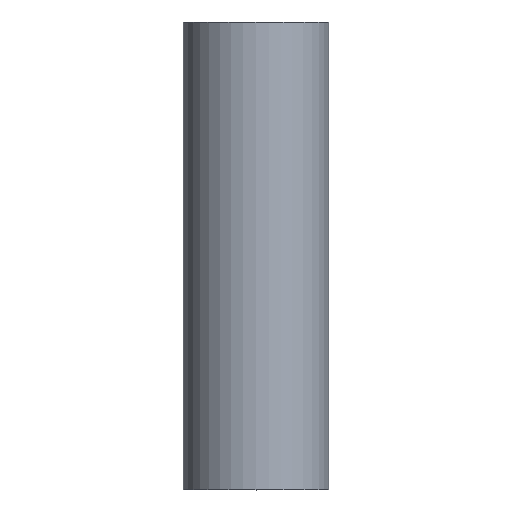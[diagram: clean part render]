
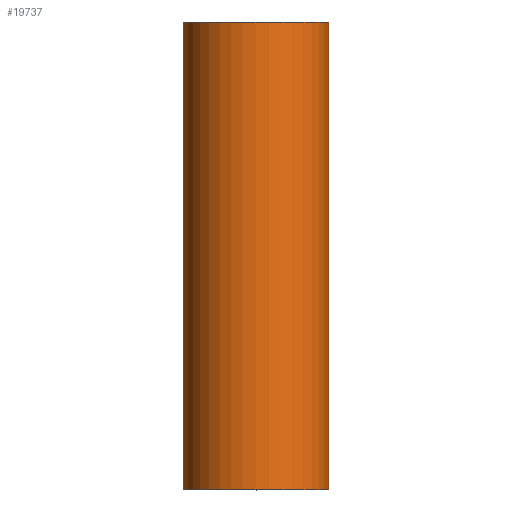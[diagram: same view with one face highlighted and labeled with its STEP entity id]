
A CAD part, top view. The second image highlights one B-rep face of the part: STEP entity #19737.
In plain terms, the highlighted cylindrical face has radius 28 mm (diameter 56 mm), a partial arc.
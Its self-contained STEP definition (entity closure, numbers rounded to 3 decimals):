
#312 = EDGE_CURVE ( 'NONE', #18554, #19914, #16184, .T. ) ;
#391 = DIRECTION ( 'NONE',  ( 0., 1., 0. ) ) ;
#1122 = CARTESIAN_POINT ( 'NONE',  ( 28., 90., 0. ) ) ;
#1675 = LINE ( 'NONE', #23341, #2067 ) ;
#1879 = ORIENTED_EDGE ( 'NONE', *, *, #312, .F. ) ;
#2067 = VECTOR ( 'NONE', #3575, 1000. ) ;
#2282 = CIRCLE ( 'NONE', #15615, 28. ) ;
#2470 = DIRECTION ( 'NONE',  ( 0., 1., 0. ) ) ;
#3575 = DIRECTION ( 'NONE',  ( 0., 1., 0. ) ) ;
#4603 = DIRECTION ( 'NONE',  ( 0., 1., 0. ) ) ;
#5052 = EDGE_CURVE ( 'NONE', #23221, #5227, #1675, .T. ) ;
#5227 = VERTEX_POINT ( 'NONE', #1122 ) ;
#5630 = DIRECTION ( 'NONE',  ( -1., 0., 0. ) ) ;
#5697 = ORIENTED_EDGE ( 'NONE', *, *, #9372, .F. ) ;
#6386 = VECTOR ( 'NONE', #14276, 1000. ) ;
#7544 = CARTESIAN_POINT ( 'NONE',  ( 0., -90., 0. ) ) ;
#7966 = DIRECTION ( 'NONE',  ( -1., 0., 0. ) ) ;
#8062 = CARTESIAN_POINT ( 'NONE',  ( -28., 90., 0. ) ) ;
#9372 = EDGE_CURVE ( 'NONE', #19914, #5227, #9660, .T. ) ;
#9660 = CIRCLE ( 'NONE', #17286, 28. ) ;
#9897 = AXIS2_PLACEMENT_3D ( 'NONE', #18420, #4603, #9956 ) ;
#9956 = DIRECTION ( 'NONE',  ( 1., 0., 0. ) ) ;
#12296 = ORIENTED_EDGE ( 'NONE', *, *, #5052, .T. ) ;
#12983 = FACE_OUTER_BOUND ( 'NONE', #22679, .T. ) ;
#14276 = DIRECTION ( 'NONE',  ( 0., 1., 0. ) ) ;
#15615 = AXIS2_PLACEMENT_3D ( 'NONE', #7544, #391, #5630 ) ;
#15914 = CARTESIAN_POINT ( 'NONE',  ( -28., -90., 0. ) ) ;
#16184 = LINE ( 'NONE', #21421, #6386 ) ;
#17286 = AXIS2_PLACEMENT_3D ( 'NONE', #19065, #2470, #7966 ) ;
#18420 = CARTESIAN_POINT ( 'NONE',  ( 0., -90., 0. ) ) ;
#18554 = VERTEX_POINT ( 'NONE', #15914 ) ;
#19065 = CARTESIAN_POINT ( 'NONE',  ( 0., 90., 0. ) ) ;
#19516 = ORIENTED_EDGE ( 'NONE', *, *, #21599, .T. ) ;
#19737 = ADVANCED_FACE ( 'NONE', ( #12983 ), #20227, .T. ) ;
#19913 = CARTESIAN_POINT ( 'NONE',  ( 28., -90., 0. ) ) ;
#19914 = VERTEX_POINT ( 'NONE', #8062 ) ;
#20227 = CYLINDRICAL_SURFACE ( 'NONE', #9897, 28. ) ;
#21421 = CARTESIAN_POINT ( 'NONE',  ( -28., -90., 0. ) ) ;
#21599 = EDGE_CURVE ( 'NONE', #18554, #23221, #2282, .T. ) ;
#22679 = EDGE_LOOP ( 'NONE', ( #12296, #5697, #1879, #19516 ) ) ;
#23221 = VERTEX_POINT ( 'NONE', #19913 ) ;
#23341 = CARTESIAN_POINT ( 'NONE',  ( 28., -90., 0. ) ) ;
